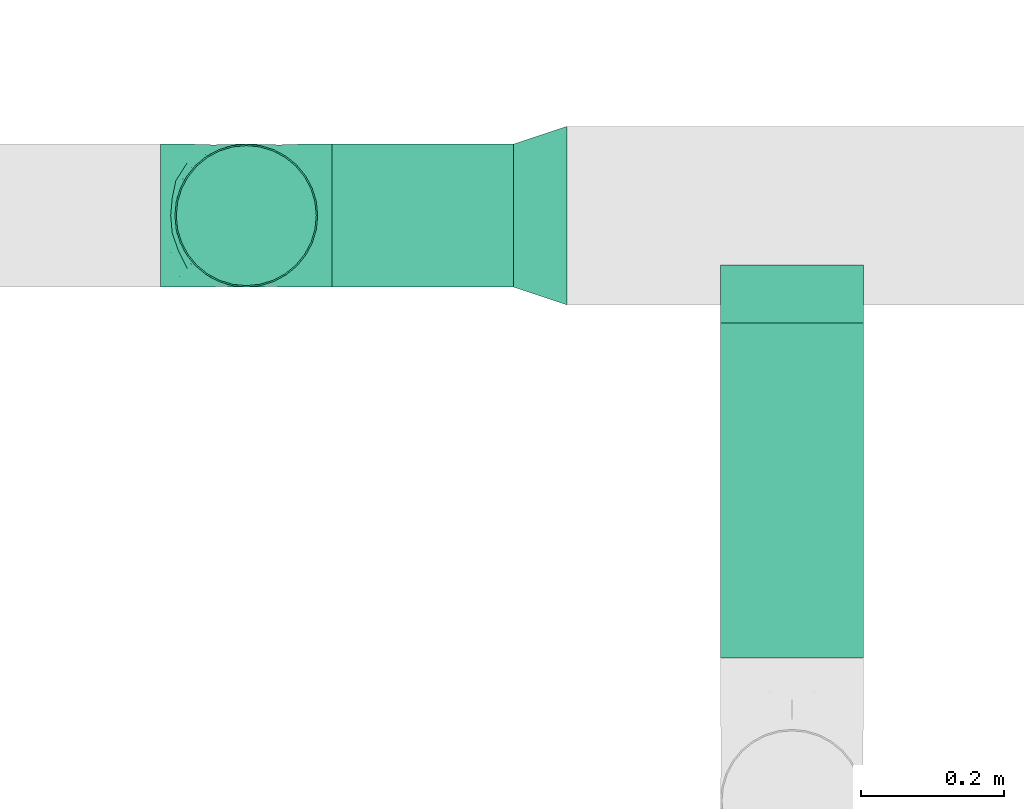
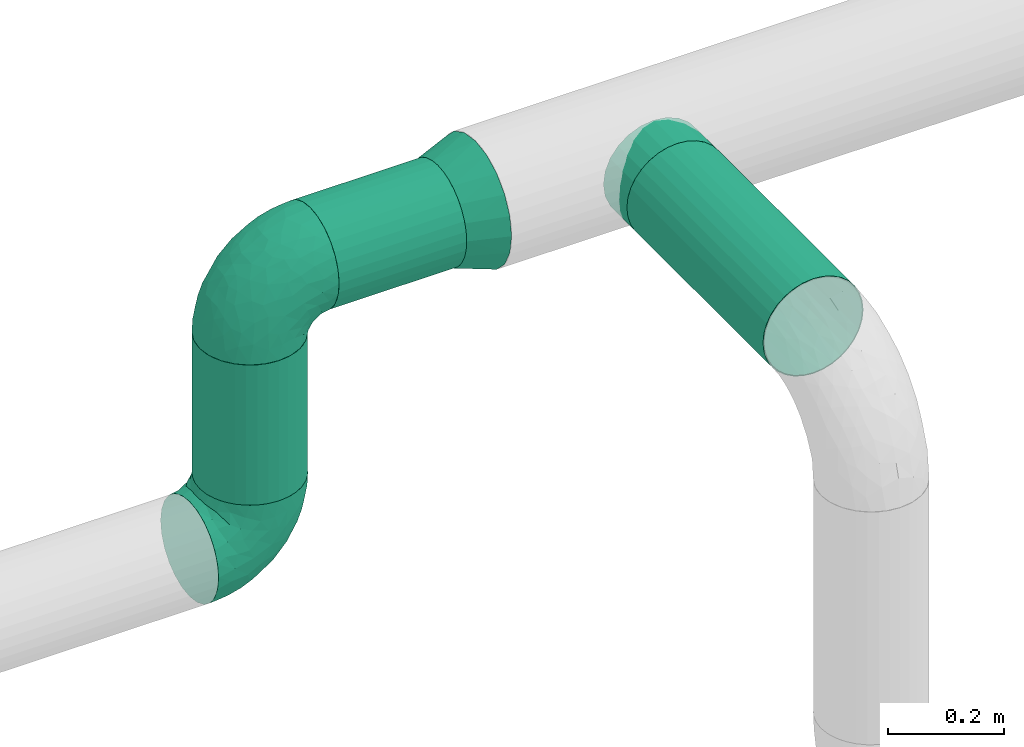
# One storey, part 8 of 31: 4 flow fittings, 3 flow segments.
"""IFC2X3 building model written with IfcOpenShell, lengths in millimetres."""

import ifcopenshell
import ifcopenshell.guid

model = None  # the IFC model being written
_history = None  # IfcOwnerHistory: only IFC2X3 demands one
_inside = {}  # id of a spatial element -> (the spatial element, [elements in it])
_under = {}  # id of a project, library or spatial element -> (it, [spatial elements below it])
_declared = {}  # id of a project -> (the project, [libraries it declares])
_typed = {}  # id of a type object -> (the type object, [elements of that type])
_made_of = {}  # id of a material, layer set ... -> (it, [elements and type objects made of it])


def new_model(schema):
    """Start an empty IFC model of exactly this schema.

    Asked for "IFC4X3", IfcOpenShell would pick the latest addendum, in which some entities
    have other attributes; the version numbers below select the first issue.
    IFC2X3 requires an IfcOwnerHistory on every rooted entity: one is made here for all.
    """
    global model, _history
    if schema == "IFC4X3":
        model = ifcopenshell.file(schema_version=(4, 3, 0, 0))
    else:
        model = ifcopenshell.file(schema=schema)
    _inside.clear()
    _under.clear()
    _declared.clear()
    _typed.clear()
    _made_of.clear()
    _history = None
    if model.schema == "IFC2X3":
        org = make("IfcOrganization", Name="unknown")
        user = make(
            "IfcPersonAndOrganization",
            ThePerson=make("IfcPerson", FamilyName="unknown"),
            TheOrganization=org,
        )
        app = make(
            "IfcApplication",
            ApplicationDeveloper=org,
            Version="unknown",
            ApplicationFullName="unknown",
            ApplicationIdentifier="unknown",
        )
        _history = make(
            "IfcOwnerHistory",
            OwningUser=user,
            OwningApplication=app,
            ChangeAction="ADDED",
            CreationDate=0,
        )
    return model


def make(cls, **values):
    """One entity of the class cls with the attributes given. An attribute that is None is left unset."""
    return model.create_entity(
        cls, **{name: value for name, value in values.items() if value is not None}
    )


def entity(cls, *values):
    """Any entity or typed value of the class cls, its attributes in the order of the schema. None: left unset."""
    e = model.create_entity(cls)
    for i, value in enumerate(values):
        if value is not None:
            e[i] = value
    return e


def rooted(cls, **values):
    """An entity with a GlobalId (a new one), such as an element, a storey or a relation."""
    return make(cls, GlobalId=ifcopenshell.guid.new(), OwnerHistory=_history, **values)


def si_unit(unit_type, name, prefix=None):
    """IfcSIUnit, for example si_unit("LENGTHUNIT", "METRE", prefix="MILLI")."""
    return make("IfcSIUnit", UnitType=unit_type, Prefix=prefix, Name=name)


def converted_unit(unit_type, name, factor, base, dimensions=None, offset=None):
    """IfcConversionBasedUnit, such as the inch: factor (a typed value) times the base unit."""
    return make(
        "IfcConversionBasedUnit"
        if offset is None
        else "IfcConversionBasedUnitWithOffset",
        ConversionOffset=offset,
        Dimensions=None
        if dimensions is None
        else entity("IfcDimensionalExponents", *dimensions),
        UnitType=unit_type,
        Name=name,
        ConversionFactor=make(
            "IfcMeasureWithUnit", ValueComponent=factor, UnitComponent=base
        ),
    )


def derived_unit(unit_type, elements):
    """IfcDerivedUnit: a product of units, each with its exponent."""
    return make(
        "IfcDerivedUnit",
        Elements=[
            make("IfcDerivedUnitElement", Unit=unit, Exponent=power)
            for unit, power in elements
        ],
        UnitType=unit_type,
    )


def assignment(units):
    """IfcUnitAssignment: the units of a project."""
    return None if units is None else make("IfcUnitAssignment", Units=units)


def point(xyz):
    """IfcCartesianPoint."""
    return None if xyz is None else make("IfcCartesianPoint", Coordinates=xyz)


def direction(xyz):
    """IfcDirection."""
    return None if xyz is None else make("IfcDirection", DirectionRatios=xyz)


def frame(location, z_axis=None, x_axis=None):
    """IfcAxis2Placement3D, a coordinate frame: its origin and axes. An axis left out is left unset."""
    return make(
        "IfcAxis2Placement3D",
        Location=point(location),
        Axis=direction(z_axis),
        RefDirection=direction(x_axis),
    )


def frame_2d(location, x_axis=None):
    """IfcAxis2Placement2D, a coordinate frame in the plane: its origin and x axis."""
    return make(
        "IfcAxis2Placement2D", Location=point(location), RefDirection=direction(x_axis)
    )


def origin_with_axes():
    """The frame at (0, 0, 0) with the z axis (0, 0, 1) and the x axis (1, 0, 0) written out."""
    return frame((0.0, 0.0, 0.0), z_axis=(0.0, 0.0, 1.0), x_axis=(1.0, 0.0, 0.0))


def origin_2d_with_axis():
    """The frame at (0, 0) in the plane with the x axis (1, 0) written out."""
    return frame_2d((0.0, 0.0), x_axis=(1.0, 0.0))


def place(relative_to, where):
    """IfcLocalPlacement: puts the frame where relative to a parent placement (None: the world)."""
    return make(
        "IfcLocalPlacement", PlacementRelTo=relative_to, RelativePlacement=where
    )


def context(
    kind, dimensions, precision=None, world=None, true_north=None, identifier=None
):
    """IfcGeometricRepresentationContext, for example the 3D "Model" context."""
    return make(
        "IfcGeometricRepresentationContext",
        ContextIdentifier=identifier,
        ContextType=kind,
        CoordinateSpaceDimension=dimensions,
        Precision=precision,
        WorldCoordinateSystem=world,
        TrueNorth=true_north,
    )


def subcontext(parent, identifier, kind, view, scale=None):
    """IfcGeometricRepresentationSubContext, for example "Body" below "Model"."""
    return make(
        "IfcGeometricRepresentationSubContext",
        ContextIdentifier=identifier,
        ContextType=kind,
        ParentContext=parent,
        TargetScale=scale,
        TargetView=view,
    )


def project(units=None, contexts=None):
    """IfcProject with its units and contexts."""
    return rooted(
        "IfcProject",
        Name="project",
        RepresentationContexts=contexts,
        UnitsInContext=assignment(units),
    )


def spatial(cls, under=None, at=None, **own):
    """A site, building, storey or space (cls), placed at a placement, below another one or the project."""
    s = rooted(cls, ObjectPlacement=at, **own)
    if under is not None:
        _under.setdefault(under.id(), (under, []))[1].append(s)
    return s


def profile(cls, at=None, kind="AREA", **sizes):
    """A parametric profile (cls). Its sizes go by their IFC names, for example OverallWidth=200.0."""
    return make(cls, ProfileType=kind, Position=at, **sizes)


def hollow_circle(**sizes):
    """IfcCircleHollowProfileDef."""
    return profile("IfcCircleHollowProfileDef", **sizes)


def extrude(swept, where, along, depth):
    """IfcExtrudedAreaSolid: the profile swept, set in the frame where, extruded along a direction by depth."""
    return make(
        "IfcExtrudedAreaSolid",
        SweptArea=swept,
        Position=where,
        ExtrudedDirection=direction(along),
        Depth=depth,
    )


def faces_of(points, faces, orient=None, outer=None):
    """IfcFace entities. A face is a list of loops; a loop is a list of indices into points, from 0.

    orient and outer hold one flag for each loop. By default every Orientation is true, the
    first loop of a face is its IfcFaceOuterBound and the others are IfcFaceBound.
    """
    made = []
    for i, loops in enumerate(faces):
        bounds = []
        for j, loop in enumerate(loops):
            is_outer = j == 0 if outer is None else outer[i][j]
            bounds.append(
                make(
                    "IfcFaceOuterBound" if is_outer else "IfcFaceBound",
                    Bound=make("IfcPolyLoop", Polygon=[points[k] for k in loop]),
                    Orientation=True if orient is None else orient[i][j],
                )
            )
        made.append(make("IfcFace", Bounds=bounds))
    return made


def open_shell(faces, orient=None, outer=None):
    """The faces of one IfcOpenShell. surface_model builds it on its shared points."""
    return ("IfcOpenShell", faces, orient, outer)


def surface_model(cls, points, shells):
    """IfcFaceBasedSurfaceModel or IfcShellBasedSurfaceModel (cls): surfaces that need not close."""
    shared = [point(p) for p in points]
    made = [make(c, CfsFaces=faces_of(shared, fs, o, b)) for c, fs, o, b in shells]
    if cls == "IfcFaceBasedSurfaceModel":
        return make(cls, FbsmFaces=made)
    return make(cls, SbsmBoundary=made)


def shape(context_of_items, identifier, shape_type, items):
    """IfcShapeRepresentation: the items that make up one representation, for example the "Body"."""
    return make(
        "IfcShapeRepresentation",
        ContextOfItems=context_of_items,
        RepresentationIdentifier=identifier,
        RepresentationType=shape_type,
        Items=items,
    )


def source(mapping_origin, context_of_items, identifier, shape_type, items):
    """IfcRepresentationMap: a shape defined once, which mapped items show again and again."""
    return make(
        "IfcRepresentationMap",
        MappingOrigin=mapping_origin,
        MappedRepresentation=shape(context_of_items, identifier, shape_type, items),
    )


def transform(
    local_origin,
    x_axis=None,
    y_axis=None,
    z_axis=None,
    scale=None,
    scale2=None,
    scale3=None,
    uniform=True,
):
    """IfcCartesianTransformationOperator3D, or its non-uniform kind. x_axis, y_axis, z_axis: its Axis1, 2, 3."""
    if uniform:
        return make(
            "IfcCartesianTransformationOperator3D",
            Axis1=direction(x_axis),
            Axis2=direction(y_axis),
            LocalOrigin=point(local_origin),
            Scale=scale,
            Axis3=direction(z_axis),
        )
    return make(
        "IfcCartesianTransformationOperator3DnonUniform",
        Axis1=direction(x_axis),
        Axis2=direction(y_axis),
        LocalOrigin=point(local_origin),
        Scale=scale,
        Axis3=direction(z_axis),
        Scale2=scale2,
        Scale3=scale3,
    )


def mapped(mapping_source, mapping_target):
    """IfcMappedItem: shows the shape of a source again, moved by a transform."""
    return make(
        "IfcMappedItem", MappingSource=mapping_source, MappingTarget=mapping_target
    )


def made_of(thing, what):
    """Note that an element or type object is made of a material, layer set ...; save() writes the relation."""
    if what is not None:
        _made_of.setdefault(what.id(), (what, []))[1].append(thing)
    return thing


def type_object(cls, material=None, **own):
    """A type object (cls), such as IfcWallType, which elements share."""
    return made_of(rooted(cls, **own), material)


def element(
    cls,
    number,
    at=None,
    inside=None,
    cuts=None,
    type_object=None,
    material=None,
    context=None,
    identifier="Body",
    shape_type=None,
    held_by="IfcProductDefinitionShape",
    body=None,
    shapes=None,
    **own,
):
    """One element of the class cls, such as IfcWall. Its Tag is "e" and its number.

    at: its placement. inside: the storey or other place that contains it. cuts: it is an
    opening in that element (IfcRelVoidsElement). A single representation is given by context,
    identifier, shape_type and body (its items); several are given by shapes. held_by: the class
    of the entity that holds the representations. save() writes the other relations.
    """
    e = rooted(cls, Tag="e%d" % number, ObjectPlacement=at, **own)
    if body is not None:
        shapes = [shape(context, identifier, shape_type, body)]
    if shapes is not None:
        e.Representation = make(held_by, Representations=shapes)
    if inside is not None:
        _inside.setdefault(inside.id(), (inside, []))[1].append(e)
    if cuts is not None:
        rooted(
            "IfcRelVoidsElement", RelatingBuildingElement=cuts, RelatedOpeningElement=e
        )
    if type_object is not None:
        _typed.setdefault(type_object.id(), (type_object, []))[1].append(e)
    return made_of(e, material)


def aggregate(whole, parts):
    """IfcRelAggregates: a whole, such as a stair, and the parts it consists of."""
    return rooted("IfcRelAggregates", RelatingObject=whole, RelatedObjects=parts)


def save(model, path):
    """Write the relations noted so far, then the file.

    IfcRelAggregates (storeys below a building ...), IfcRelContainedInSpatialStructure (elements
    in a storey), IfcRelDefinesByType, IfcRelAssociatesMaterial and IfcRelDeclares: one each for
    every whole, place, type object, material and project.
    """
    for whole, parts in _under.values():
        aggregate(whole, parts)
    for where, things in _inside.values():
        rooted(
            "IfcRelContainedInSpatialStructure",
            RelatedElements=things,
            RelatingStructure=where,
        )
    for kind, things in _typed.values():
        rooted("IfcRelDefinesByType", RelatedObjects=things, RelatingType=kind)
    for what, things in _made_of.values():
        rooted("IfcRelAssociatesMaterial", RelatedObjects=things, RelatingMaterial=what)
    for by, libraries in _declared.values():
        rooted("IfcRelDeclares", RelatingContext=by, RelatedDefinitions=libraries)
    model.write(path)


model = new_model("IFC2X3")

# Units and contexts
model_context = context("Model", 3, precision=0.01, world=frame((0.0, 4.29681676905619e-09, 0.0)), true_north=direction((4.01073788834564e-13, 1.0)))
plan_context = context("Plan", 3, precision=0.01, world=frame((0.0, 4.29681676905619e-09, 0.0)), true_north=direction((4.01073788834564e-13, 1.0)))
body_context = subcontext(model_context, "Body", "Model", "MODEL_VIEW")
ifc_project = project(units=[converted_unit("PLANEANGLEUNIT", "DEGREE", entity("IfcPositiveLengthMeasure", 0.0174532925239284), si_unit("PLANEANGLEUNIT", "RADIAN"), dimensions=[0, 0, 0, 0, 0, 0, 0]), si_unit("AREAUNIT", "SQUARE_METRE"), si_unit("LENGTHUNIT", "METRE", prefix="MILLI"), si_unit("MASSUNIT", "GRAM", prefix="KILO"), si_unit("POWERUNIT", "WATT"), si_unit("PRESSUREUNIT", "PASCAL", prefix="KILO"), si_unit("FORCEUNIT", "NEWTON", prefix="KILO"), si_unit("ELECTRICVOLTAGEUNIT", "VOLT"), si_unit("ELECTRICCURRENTUNIT", "AMPERE"), si_unit("THERMODYNAMICTEMPERATUREUNIT", "DEGREE_CELSIUS"), si_unit("TIMEUNIT", "SECOND"), si_unit("VOLUMEUNIT", "CUBIC_METRE"), derived_unit("LINEARVELOCITYUNIT", [(si_unit("LENGTHUNIT", "METRE"), 1), (si_unit("TIMEUNIT", "SECOND"), -1)]), derived_unit("VOLUMETRICFLOWRATEUNIT", [(si_unit("VOLUMEUNIT", "CUBIC_METRE"), 1), (si_unit("TIMEUNIT", "SECOND"), -1)]), derived_unit("THERMALTRANSMITTANCEUNIT", [(si_unit("POWERUNIT", "WATT"), 1), (si_unit("THERMODYNAMICTEMPERATUREUNIT", "KELVIN"), -1), (si_unit("AREAUNIT", "SQUARE_METRE"), -1)]), derived_unit("SOUNDPRESSUREUNIT", [(si_unit("PRESSUREUNIT", "PASCAL"), 1)])], contexts=[model_context, plan_context])

# Site, building, storey
site_placement = place(None, frame((0.0, -4.29681676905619e-09, 0.0), z_axis=(0.0, 0.0, 1.0), x_axis=(1.0, 0.0, 0.0)))
site = spatial("IfcSite", under=ifc_project, at=site_placement, CompositionType="ELEMENT")
building_placement = place(site_placement, frame((0.0, 4.29681676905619e-09, 0.0), z_axis=(0.0, 0.0, 1.0), x_axis=(1.0, 0.0, 0.0)))
building = spatial("IfcBuilding", under=site, at=building_placement, Name="mc-building", CompositionType="ELEMENT")
storey_placement = place(building_placement, frame((0.0, 0.0, 210900.0), z_axis=(0.0, 0.0, 1.0), x_axis=(1.0, 0.0, 0.0)))
storey = spatial("IfcBuildingStorey", under=building, at=storey_placement, Name="Nivå F", CompositionType="ELEMENT", Elevation=210900.0)

# Flow fittings
duct_fitting_type_1 = type_object("IfcDuctFittingType", Name="magicirc_elbow_short_001", PredefinedType="BEND")
shared_shape_1 = source(origin_with_axes(), body_context, "Body", "SurfaceModel", [
    surface_model("IfcShellBasedSurfaceModel", [(-120.0, 0.0, -100.0), (-120.0, -86.60254, -50.0), (-120.0, 25.8819, -96.59259), (-120.0, 50.0, -86.60254), (-120.0, 70.71068, -70.71068), (-120.0, 96.59259, -25.8819), (-120.0, 86.60254, -50.0), (-120.0, -50.0, -86.60254), (-120.0, -70.71068, -70.71068), (-120.0, -25.8819, -96.59259), (-120.0, -96.59259, -25.8819), (-120.0, -100.0, 0.0), (-120.0, 96.59259, 25.8819), (-120.0, -96.59259, 25.8819), (-120.0, 86.60254, 50.0), (-120.0, 25.8819, 96.59259), (-120.0, 50.0, 86.60254), (-120.0, 70.71068, 70.71068), (-120.0, -25.8819, 96.59259), (-120.0, -70.71068, 70.71068), (-120.0, -50.0, 86.60254), (-120.0, -86.60254, 50.0), (-120.0, 0.0, 100.0), (-120.0, 100.0, 0.0), (-25.8819, 120.0, -96.59259), (70.71068, 120.0, -70.71068), (0.0, 120.0, -100.0), (-70.71068, 120.0, -70.71068), (-50.0, 120.0, -86.60254), (-86.60254, 120.0, -50.0), (-96.59259, 120.0, -25.8819), (86.60254, 120.0, -50.0), (25.8819, 120.0, -96.59259), (50.0, 120.0, -86.60254), (100.0, 120.0, 0.0), (96.59259, 120.0, -25.8819), (-96.59259, 120.0, 25.8819), (96.59259, 120.0, 25.8819), (-25.8819, 120.0, 96.59259), (-86.60254, 120.0, 50.0), (-70.71068, 120.0, 70.71068), (-50.0, 120.0, 86.60254), (25.8819, 120.0, 96.59259), (86.60254, 120.0, 50.0), (50.0, 120.0, 86.60254), (70.71068, 120.0, 70.71068), (0.0, 120.0, 100.0), (-100.0, 120.0, 0.0), (-57.47657, 95.22229, 84.95805), (-85.33946, -92.96309, 28.79275), (-95.20929, -97.20676, 0.0), (-84.48473, -65.01559, 72.95431), (-52.96075, -70.60035, 57.16979), (-58.29219, -58.77958, 72.2572), (-71.0454, -94.48414, 0.0), (-33.46621, 86.30074, 96.24781), (-7.45333, 88.76819, 99.94878), (-26.53059, -25.83103, 84.66541), (5.23459, -24.1841, 70.44192), (-1.23107, 1.23105, 87.74618), (-103.71213, 103.71213, 24.44784), (-95.28171, 98.70414, 48.64074), (-78.83961, -43.63421, 87.3226), (48.45058, -8.12007, 40.03254), (39.62941, -27.51041, 22.8702), (55.13075, -9.11298, 21.86769), (27.15427, -27.15428, 47.29752), (-0.9865, -46.35038, 53.41318), (-49.25997, -85.42957, 23.21428), (-69.41482, -80.94006, 48.93369), (34.63169, 2.36241, 66.9375), (-59.03727, -17.74459, 95.19283), (-92.36993, -18.34983, 97.75252), (-98.24586, -81.70799, 55.95793), (-87.21661, 7.38787, 99.96319), (-79.82304, 33.86298, 96.83649), (-103.25245, 34.36931, 94.48617), (-49.8635, 16.95363, 99.89181), (-93.99414, 57.52782, 85.21417), (-13.524, 31.6217, 98.29715), (-30.34675, -2.85909, 94.71053), (-102.74619, 77.59979, 67.01377), (-105.2102, 88.7141, 52.03645), (94.48414, 71.0454, 0.0), (92.96309, 85.33946, 28.79275), (85.42957, 49.25997, 23.21428), (18.34983, 92.36993, 97.75252), (-37.44754, -44.66633, 76.66985), (-66.8783, 56.54931, 92.80405), (65.01559, 84.48473, 72.95431), (43.6342, 78.83961, 87.3226), (37.67702, 38.38344, 81.78155), (58.58205, 33.30331, 61.93165), (58.77958, 58.29217, 72.2572), (14.52663, -47.57763, 31.54394), (81.70799, 98.24586, 55.95793), (97.20676, 95.20929, 0.0), (75.2275, 38.8764, 40.54554), (80.94006, 69.41482, 48.93369), (-19.32309, 64.21329, 99.87988), (-105.85786, 105.85786, 0.0), (17.74458, 59.03726, 95.19283), (70.60036, 52.96074, 57.16978), (-82.76473, 82.76473, 73.92657), (-77.59979, 102.74619, 67.01377), (-38.87641, -75.2275, 40.54555), (-40.86148, 50.04827, 98.96107), (-25.82378, -76.70765, 19.45345), (-49.50418, 71.23352, 93.94065), (-57.3172, 35.12243, 98.9453), (65.10804, 3.68891, 0.0), (65.80674, 11.30259, 30.40508), (15.01777, 28.10412, 90.12797), (-0.1518, 65.0789, 99.29745), (-47.79548, -86.34864, 0.0), (-67.45496, 75.91085, 85.7741), (-3.68891, -65.10804, 0.0), (17.16776, -52.00293, 0.0), (-11.30259, -65.80674, 30.40508), (-24.54558, -78.21315, 0.0), (76.76895, 27.91333, 23.28633), (86.34864, 47.79548, 0.0), (58.40844, 13.74403, 48.13414), (52.00293, -17.16776, 0.0), (20.33542, 8.19535, 80.42602), (-51.11653, -33.50476, 87.58865), (-33.30333, -58.58206, 61.93166), (-17.26255, -60.80757, 47.57586), (78.21315, 24.54558, 0.0), (34.58534, -34.58534, 0.0), (-86.30074, 33.4662, -96.24781), (-34.36932, 103.25245, -94.48617), (-11.30259, -65.80673, -30.40508), (9.11298, -55.13075, -21.86769), (-98.24586, -81.70799, -55.95793), (-88.7682, 7.45333, -99.94878), (43.63421, 78.83961, -87.3226), (-98.70414, 95.28171, -48.64074), (-82.76473, 82.76473, -73.92657), (-102.74619, 77.59979, -67.01377), (85.42957, 49.25997, -23.21428), (75.22749, 38.8764, -40.54555), (80.94006, 69.41482, -48.93369), (27.15427, -27.15428, -47.29753), (47.57763, -14.52663, -31.54396), (27.51041, -39.62941, -22.8702), (-71.23352, 49.50417, -93.94066), (-56.54932, 66.8783, -92.80405), (-50.04827, 40.86148, -98.96107), (-33.86298, 79.82303, -96.83649), (-57.52782, 93.99414, -85.21417), (-16.95364, 49.8635, -99.89182), (-31.6217, 13.52399, -98.29715), (-85.33946, -92.96309, -28.79275), (24.18408, -5.23461, -70.44192), (46.35038, 0.9865, -53.41318), (65.01559, 84.48472, -72.95431), (-84.48473, -65.01559, -72.95431), (-78.83961, -43.63421, -87.3226), (-103.71213, 103.71213, -24.44784), (-95.22229, 57.47657, -84.95805), (-49.25997, -85.42957, -23.21428), (-92.36993, -18.34984, -97.75252), (-38.87641, -75.2275, -40.54555), (-69.41482, -80.94006, -48.93369), (-88.7141, 105.2102, -52.03645), (-7.38786, 87.21659, -99.96319), (17.74459, 59.03726, -95.19283), (-33.30333, -58.58206, -61.93166), (-52.96075, -70.60035, -57.16979), (-77.59979, 102.74619, -67.01377), (-38.38346, -37.67703, -81.78155), (-2.36242, -34.6317, -66.93751), (18.34983, 92.36993, -97.75252), (81.70799, 98.24586, -55.95793), (8.12006, -48.45058, -40.03254), (-1.23106, 1.23105, -87.74618), (25.83103, 26.53058, -84.6654), (92.96309, 85.33946, -28.79275), (76.70765, 25.82378, -19.45345), (-59.03727, -17.74459, -95.19283), (2.8591, 30.34673, -94.71053), (-64.21329, 19.32309, -99.87988), (58.77958, 58.29219, -72.2572), (70.60035, 52.96075, -57.16979), (-58.29219, -58.77958, -72.2572), (-35.12244, 57.3172, -98.9453), (44.66633, 37.44754, -76.66985), (-28.10413, -15.01778, -90.12797), (-65.07891, 0.1518, -99.29745), (-75.91086, 67.45496, -85.7741), (-27.91333, -76.76895, -23.28633), (-13.74403, -58.40844, -48.13415), (65.80673, 11.30258, -30.40508), (-8.19536, -20.33543, -80.42602), (33.50476, 51.11653, -87.58865), (58.58205, 33.30333, -61.93166), (60.80757, 17.26255, -47.57586)], [open_shell([[[0, 1, 2]], [[3, 2, 4]], [[5, 6, 4]], [[1, 4, 2]], [[4, 1, 5]], [[7, 8, 9]], [[8, 0, 9]], [[10, 11, 1]], [[1, 0, 8]], [[1, 11, 5]], [[11, 12, 5]], [[12, 11, 13]], [[14, 12, 15]], [[15, 16, 17]], [[14, 15, 17]], [[15, 12, 18]], [[19, 20, 21]], [[13, 21, 20]], [[13, 20, 12]], [[20, 18, 12]], [[18, 22, 15]], [[23, 5, 12]], [[24, 25, 26]], [[27, 24, 28]], [[27, 29, 30]], [[24, 27, 31]], [[30, 31, 27]], [[32, 25, 33]], [[32, 26, 25]], [[31, 34, 35]], [[25, 24, 31]], [[30, 34, 31]], [[30, 36, 34]], [[37, 34, 36]], [[38, 36, 39]], [[40, 41, 38]], [[40, 38, 39]], [[42, 36, 38]], [[43, 44, 45]], [[44, 43, 37]], [[36, 44, 37]], [[36, 42, 44]], [[38, 46, 42]], [[36, 30, 47]], [[41, 40, 48]], [[49, 13, 50]], [[49, 21, 13]], [[51, 52, 53]], [[50, 54, 49]], [[38, 55, 56]], [[57, 58, 59]], [[60, 61, 36]], [[20, 51, 62]], [[63, 64, 65]], [[66, 58, 67]], [[49, 68, 69]], [[20, 19, 51]], [[58, 66, 70]], [[62, 71, 72]], [[22, 18, 72]], [[73, 19, 21]], [[74, 75, 76]], [[75, 74, 77]], [[16, 76, 78]], [[79, 77, 80]], [[17, 81, 14]], [[82, 12, 14]], [[81, 82, 14]], [[23, 12, 60]], [[83, 84, 85]], [[16, 78, 17]], [[41, 48, 55]], [[42, 46, 86]], [[53, 87, 62]], [[18, 20, 62]], [[75, 88, 78]], [[89, 45, 44]], [[86, 90, 42]], [[60, 12, 82]], [[44, 42, 90]], [[91, 92, 93]], [[84, 37, 43]], [[66, 94, 64]], [[90, 89, 44]], [[45, 95, 43]], [[84, 96, 37]], [[97, 85, 98]], [[15, 76, 16]], [[99, 56, 55]], [[100, 23, 60]], [[91, 90, 101]], [[100, 60, 47]], [[92, 97, 102]], [[103, 104, 61]], [[68, 105, 69]], [[106, 77, 79]], [[61, 39, 36]], [[40, 39, 104]], [[15, 22, 74]], [[107, 105, 68]], [[108, 88, 106]], [[55, 38, 41]], [[56, 46, 38]], [[92, 91, 70]], [[109, 77, 106]], [[110, 111, 65]], [[74, 71, 77]], [[72, 74, 22]], [[80, 71, 57]], [[75, 109, 88]], [[81, 78, 103]], [[112, 79, 59]], [[113, 56, 99]], [[68, 54, 114]], [[73, 49, 69]], [[95, 84, 43]], [[85, 84, 98]], [[104, 48, 40]], [[115, 88, 108]], [[108, 99, 55]], [[56, 113, 86]], [[102, 93, 92]], [[95, 89, 98]], [[73, 51, 19]], [[52, 69, 105]], [[116, 117, 118]], [[68, 119, 107]], [[107, 116, 118]], [[67, 94, 66]], [[97, 111, 120]], [[85, 121, 83]], [[70, 63, 122]], [[65, 123, 110]], [[101, 112, 91]], [[66, 64, 63]], [[124, 91, 112]], [[70, 124, 58]], [[59, 80, 57]], [[58, 87, 67]], [[57, 125, 87]], [[58, 57, 87]], [[99, 108, 106]], [[78, 88, 115]], [[56, 86, 46]], [[90, 86, 101]], [[62, 72, 18]], [[74, 72, 71]], [[61, 104, 39]], [[104, 103, 115]], [[78, 81, 17]], [[82, 103, 61]], [[126, 127, 67]], [[67, 127, 94]], [[85, 128, 121]], [[94, 129, 64]], [[110, 120, 111]], [[63, 65, 111]], [[122, 63, 111]], [[70, 66, 63]], [[79, 80, 59]], [[77, 71, 80]], [[106, 79, 99]], [[113, 79, 101]], [[55, 48, 108]], [[48, 104, 115]], [[48, 115, 108]], [[78, 115, 103]], [[127, 105, 118]], [[105, 127, 52]], [[53, 52, 126]], [[51, 69, 52]], [[87, 53, 126]], [[62, 51, 53]], [[87, 126, 67]], [[57, 71, 125]], [[71, 62, 125]], [[62, 87, 125]], [[102, 97, 98]], [[122, 97, 92]], [[98, 89, 102]], [[93, 102, 89]], [[89, 90, 93]], [[91, 93, 90]], [[97, 122, 111]], [[70, 122, 92]], [[79, 113, 99]], [[86, 113, 101]], [[64, 123, 65]], [[85, 97, 120]], [[79, 112, 101]], [[120, 110, 128]], [[124, 112, 59]], [[58, 124, 59]], [[91, 124, 70]], [[103, 82, 81]], [[82, 61, 60]], [[13, 11, 50]], [[96, 84, 83]], [[96, 34, 37]], [[47, 60, 36]], [[74, 76, 15]], [[78, 76, 75]], [[49, 73, 21]], [[51, 73, 69]], [[89, 95, 45]], [[84, 95, 98]], [[88, 109, 106]], [[75, 77, 109]], [[54, 68, 49]], [[114, 119, 68]], [[105, 107, 118]], [[107, 119, 116]], [[117, 94, 118]], [[127, 126, 52]], [[94, 127, 118]], [[129, 94, 117]], [[129, 123, 64]], [[128, 85, 120]], [[3, 130, 2]], [[24, 131, 28]], [[132, 133, 116]], [[8, 134, 1]], [[2, 135, 0]], [[32, 33, 136]], [[137, 138, 139]], [[140, 141, 142]], [[6, 139, 4]], [[143, 144, 145]], [[6, 5, 137]], [[146, 147, 148]], [[149, 147, 150]], [[148, 151, 152]], [[1, 153, 10]], [[143, 154, 155]], [[153, 50, 10]], [[33, 25, 156]], [[157, 7, 158]], [[159, 137, 5]], [[8, 7, 157]], [[7, 9, 158]], [[3, 4, 160]], [[35, 34, 96]], [[54, 153, 161]], [[9, 162, 158]], [[163, 161, 164]], [[165, 30, 29]], [[23, 100, 159]], [[166, 167, 151]], [[47, 30, 159]], [[168, 163, 169]], [[29, 170, 165]], [[24, 26, 166]], [[168, 171, 172]], [[27, 170, 29]], [[149, 131, 166]], [[160, 130, 3]], [[149, 166, 151]], [[136, 167, 173]], [[174, 25, 31]], [[27, 28, 150]], [[28, 131, 150]], [[32, 173, 26]], [[136, 33, 156]], [[154, 143, 172]], [[2, 130, 135]], [[133, 175, 145]], [[154, 176, 177]], [[9, 0, 162]], [[140, 142, 178]], [[179, 141, 140]], [[96, 83, 178]], [[35, 96, 178]], [[171, 158, 180]], [[152, 151, 181]], [[182, 135, 130]], [[183, 156, 184]], [[171, 168, 185]], [[178, 31, 35]], [[173, 166, 26]], [[159, 5, 23]], [[149, 151, 186]], [[183, 187, 136]], [[181, 167, 177]], [[149, 186, 147]], [[170, 150, 138]], [[188, 152, 176]], [[189, 135, 182]], [[134, 153, 1]], [[161, 153, 164]], [[140, 83, 121]], [[174, 178, 142]], [[139, 160, 4]], [[190, 147, 146]], [[146, 182, 130]], [[135, 189, 162]], [[169, 185, 168]], [[134, 157, 164]], [[174, 156, 25]], [[184, 142, 141]], [[163, 132, 191]], [[161, 114, 54]], [[172, 175, 192]], [[133, 117, 116]], [[110, 123, 193]], [[140, 128, 179]], [[179, 110, 193]], [[155, 144, 143]], [[180, 188, 171]], [[143, 145, 175]], [[194, 171, 188]], [[172, 194, 154]], [[176, 181, 177]], [[154, 187, 155]], [[177, 195, 187]], [[154, 177, 187]], [[182, 146, 148]], [[150, 147, 190]], [[135, 162, 0]], [[158, 162, 180]], [[136, 173, 32]], [[166, 173, 167]], [[137, 139, 6]], [[139, 138, 190]], [[150, 170, 27]], [[165, 138, 137]], [[196, 197, 155]], [[155, 197, 144]], [[197, 196, 184]], [[144, 129, 145]], [[116, 191, 132]], [[175, 133, 132]], [[192, 175, 132]], [[172, 143, 175]], [[152, 181, 176]], [[151, 167, 181]], [[148, 152, 182]], [[189, 152, 180]], [[130, 160, 146]], [[160, 139, 190]], [[160, 190, 146]], [[150, 190, 138]], [[169, 163, 164]], [[192, 163, 168]], [[164, 157, 169]], [[185, 169, 157]], [[157, 158, 185]], [[171, 185, 158]], [[197, 141, 193]], [[141, 197, 184]], [[183, 184, 196]], [[156, 142, 184]], [[187, 183, 196]], [[136, 156, 183]], [[187, 196, 155]], [[177, 167, 195]], [[167, 136, 195]], [[136, 187, 195]], [[163, 192, 132]], [[172, 192, 168]], [[152, 189, 182]], [[162, 189, 180]], [[145, 117, 133]], [[161, 163, 191]], [[152, 188, 180]], [[191, 116, 119]], [[194, 188, 176]], [[154, 194, 176]], [[171, 194, 172]], [[138, 165, 170]], [[165, 137, 159]], [[50, 153, 54]], [[50, 11, 10]], [[47, 159, 100]], [[159, 30, 165]], [[166, 131, 24]], [[150, 131, 149]], [[178, 174, 31]], [[156, 174, 142]], [[157, 134, 8]], [[153, 134, 164]], [[151, 148, 186]], [[147, 186, 148]], [[161, 119, 114]], [[83, 140, 178]], [[121, 128, 140]], [[141, 179, 193]], [[179, 128, 110]], [[123, 144, 193]], [[144, 197, 193]], [[129, 144, 123]], [[129, 117, 145]], [[119, 161, 191]]])]),
])
for number, where, z_axis, x_axis, name in (
    (1, (720938.23525, 437405.213, 3320.0), (0.0, -1.0, 0.0), (1.0, 0.0, 0.0), "magicirc_elbow_short_001"),
    (2, (720938.23525, 437405.213, 3855.0), (0.0, 1.0, 0.0), (0.0, 0.0, 1.0), "magicirc_elbow_short_001"),
):
    element("IfcFlowFitting", number, at=place(storey_placement, frame(where, z_axis=z_axis, x_axis=x_axis)), inside=storey, type_object=duct_fitting_type_1, Name=name, context=body_context, shape_type="MappedRepresentation", body=[
        mapped(shared_shape_1, transform((0.0, 0.0, 0.0), scale=1.0)),
    ])
duct_fitting_type_2 = type_object("IfcDuctFittingType", Name="magicirc_reduction_001", PredefinedType="TRANSITION")
shared_shape_2 = source(origin_with_axes(), body_context, "Body", "SurfaceModel", [
    surface_model("IfcShellBasedSurfaceModel", [(75.0, -100.0, 0.0), (75.0, -17.36482, 98.48077), (75.0, -50.0, 86.60254), (75.0, 76.60444, 64.27876), (75.0, 93.96926, -34.20201), (75.0, 93.96926, 34.20201), (75.0, 76.60444, -64.27876), (75.0, 17.36482, 98.48077), (0.0, -118.88206, 38.62713), (0.0, -118.88206, -38.62713), (0.0, -125.0, 0.0), (0.0, 125.0, 0.0), (0.0, -73.47315, -101.12712), (0.0, 101.12712, -73.47315), (0.0, 73.47315, -101.12712), (0.0, 38.62713, -118.88206), (75.0, -76.60444, 64.27876), (75.0, 50.0, 86.60254), (75.0, 100.0, 0.0), (75.0, -93.96926, 34.20201), (75.0, -17.36482, -98.48077), (75.0, -93.96926, -34.20201), (75.0, -76.60444, -64.27876), (75.0, -50.0, -86.60254), (75.0, 50.0, -86.60254), (75.0, 17.36482, -98.48077), (0.0, -38.62713, 118.88206), (0.0, 0.0, 125.0), (0.0, 73.47315, 101.12712), (0.0, 101.12712, 73.47315), (0.0, 38.62713, 118.88206), (0.0, -101.12712, 73.47315), (0.0, -73.47315, 101.12712), (0.0, 118.88206, 38.62713), (0.0, -38.62713, -118.88206), (0.0, 118.88206, -38.62713), (0.0, 0.0, -125.0), (0.0, -101.12712, -73.47315)], [open_shell([[[0, 1, 2]], [[3, 4, 5]], [[4, 0, 6]], [[0, 4, 7]], [[8, 9, 10]], [[11, 12, 9]], [[13, 14, 15]], [[1, 0, 7]], [[2, 16, 0]], [[17, 7, 4]], [[5, 4, 18]], [[4, 3, 17]], [[0, 16, 19]], [[20, 0, 21]], [[21, 22, 20]], [[23, 20, 22]], [[24, 20, 25]], [[24, 6, 0]], [[20, 24, 0]], [[9, 26, 27]], [[11, 28, 29]], [[27, 30, 11]], [[30, 28, 11]], [[9, 31, 32]], [[31, 9, 8]], [[9, 32, 26]], [[11, 29, 33]], [[34, 11, 35]], [[35, 13, 36]], [[15, 36, 13]], [[37, 9, 12]], [[11, 34, 12]], [[35, 36, 34]], [[11, 9, 27]], [[18, 4, 35]], [[24, 25, 15]], [[6, 24, 14]], [[4, 6, 13]], [[11, 18, 35]], [[6, 14, 13]], [[13, 35, 4]], [[14, 24, 15]], [[25, 36, 15]], [[34, 20, 23]], [[21, 0, 9]], [[22, 21, 37]], [[12, 23, 22]], [[34, 36, 20]], [[12, 34, 23]], [[21, 9, 37]], [[37, 12, 22]], [[10, 9, 0]], [[20, 36, 25]], [[0, 19, 8]], [[2, 1, 26]], [[16, 2, 32]], [[19, 16, 31]], [[10, 0, 8]], [[16, 32, 31]], [[31, 8, 19]], [[32, 2, 26]], [[1, 27, 26]], [[30, 7, 17]], [[5, 18, 33]], [[3, 5, 29]], [[28, 17, 3]], [[30, 27, 7]], [[28, 30, 17]], [[5, 33, 29]], [[29, 28, 3]], [[11, 33, 18]], [[7, 27, 1]]])]),
])
flow_fitting_1_placement = place(storey_placement, frame((721387.22373, 437405.213, 3855.0), z_axis=(0.0, 0.0, 1.0), x_axis=(-1.0, 0.0, 0.0)))
element("IfcFlowFitting", 3, at=flow_fitting_1_placement, inside=storey, type_object=duct_fitting_type_2, Name="magicirc_reduction_001", context=body_context, shape_type="MappedRepresentation", body=[
    mapped(shared_shape_2, transform((0.0, 0.0, 0.0), scale=1.0)),
])
duct_fitting_type_3 = type_object("IfcDuctFittingType", Name="magicirc_tapoutlet_001", PredefinedType="CONNECTOR")
shared_shape_3 = source(origin_with_axes(), body_context, "Body", "SurfaceModel", [
    surface_model("IfcShellBasedSurfaceModel", [(25.0, 0.0, -100.0), (25.0, -50.0, -86.60254), (25.0, -25.8819, -96.59259), (-56.096, 100.0, 0.0), (-56.096, 96.59259, -25.8819), (-56.096, 96.59259, 25.8819), (0.0, -25.8819, 96.59259), (0.0, 0.0, 100.0), (-56.096, 0.0, 100.0), (-56.096, -100.0, 0.0), (0.0, -100.0, 0.0), (0.0, -96.59259, 25.8819), (-56.096, -96.59259, 25.8819), (0.0, -86.60254, 50.0), (-56.096, -86.60254, 50.0), (-56.096, -70.71068, -70.71068), (0.0, -70.71068, -70.71068), (-56.096, -86.60254, -50.0), (-56.096, 86.60254, -50.0), (0.0, 70.71068, -70.71068), (-56.096, 70.71068, -70.71068), (0.0, 96.59259, 25.8819), (0.0, 100.0, 0.0), (0.0, 86.60254, 50.0), (-56.096, 86.60254, 50.0), (0.0, 25.8819, 96.59259), (25.0, -100.0, 0.0), (25.0, -96.59259, -25.8819), (25.0, -96.59259, 25.8819), (25.0, 25.8819, -96.59259), (25.0, 100.0, 0.0), (25.0, 50.0, -86.60254), (25.0, 70.71068, -70.71068), (25.0, 86.60254, -50.0), (25.0, -70.71068, -70.71068), (25.0, -86.60254, -50.0), (25.0, 96.59259, -25.8819), (25.0, 96.59259, 25.8819), (25.0, 86.60254, 50.0), (25.0, 70.71068, 70.71068), (25.0, 25.8819, 96.59259), (25.0, 50.0, 86.60254), (25.0, -25.8819, 96.59259), (25.0, -70.71068, 70.71068), (25.0, -86.60254, 50.0), (25.0, -50.0, 86.60254), (25.0, 0.0, 100.0), (0.0, 50.0, 86.60254), (0.0, 70.71068, 70.71068), (0.0, 96.59259, -25.8819), (0.0, 86.60254, -50.0), (0.0, 25.8819, -96.59259), (0.0, 50.0, -86.60254), (0.0, 0.0, -100.0), (0.0, -25.8819, -96.59259), (0.0, -50.0, -86.60254), (0.0, -86.60254, -50.0), (0.0, -96.59259, -25.8819), (0.0, -70.71068, 70.71068), (0.0, -50.0, 86.60254), (-56.096, 0.0, -100.0), (-56.096, -25.8819, -96.59259), (-56.096, 25.8819, -96.59259), (-56.096, 50.0, -86.60254), (-56.096, -50.0, -86.60254), (-56.096, -96.59259, -25.8819), (-56.096, 70.71068, 70.71068), (-56.096, 50.0, 86.60254), (-56.096, 25.8819, 96.59259), (-56.096, -70.71068, 70.71068), (-56.096, -25.8819, 96.59259), (-56.096, -50.0, 86.60254)], [open_shell([[[0, 1, 2]], [[3, 4, 5]], [[6, 7, 8]], [[9, 10, 11]], [[12, 11, 13]], [[14, 12, 13]], [[15, 16, 17]], [[18, 19, 20]], [[21, 22, 3]], [[23, 21, 5]], [[23, 5, 24]], [[8, 7, 25]], [[26, 27, 28]], [[29, 30, 0]], [[31, 30, 29]], [[30, 32, 33]], [[30, 31, 32]], [[34, 0, 28]], [[0, 34, 1]], [[35, 28, 27]], [[28, 35, 34]], [[30, 33, 36]], [[37, 38, 0]], [[38, 39, 0]], [[40, 0, 41]], [[0, 39, 41]], [[0, 40, 42]], [[0, 43, 44]], [[28, 0, 44]], [[0, 45, 43]], [[42, 45, 0]], [[40, 46, 42]], [[37, 0, 30]], [[7, 46, 40]], [[25, 40, 41]], [[7, 40, 25]], [[47, 39, 48]], [[47, 25, 41]], [[39, 47, 41]], [[23, 38, 37]], [[21, 37, 30]], [[48, 38, 23]], [[21, 23, 37]], [[22, 21, 30]], [[38, 48, 39]], [[22, 30, 36]], [[49, 36, 33]], [[22, 36, 49]], [[50, 32, 19]], [[50, 49, 33]], [[32, 50, 33]], [[29, 0, 51]], [[31, 29, 52]], [[19, 31, 52]], [[53, 51, 0]], [[29, 51, 52]], [[31, 19, 32]], [[53, 0, 2]], [[54, 2, 1]], [[53, 2, 54]], [[55, 34, 16]], [[55, 54, 1]], [[34, 55, 1]], [[56, 35, 27]], [[57, 27, 26]], [[16, 35, 56]], [[57, 56, 27]], [[10, 57, 26]], [[35, 16, 34]], [[10, 26, 28]], [[11, 28, 44]], [[10, 28, 11]], [[13, 43, 58]], [[13, 11, 44]], [[43, 13, 44]], [[59, 45, 42]], [[6, 42, 46]], [[58, 45, 59]], [[6, 59, 42]], [[7, 6, 46]], [[45, 58, 43]], [[38, 0, 37]], [[0, 38, 41]], [[41, 38, 39]], [[42, 0, 40]], [[0, 44, 28]], [[43, 44, 0]], [[43, 0, 45]], [[60, 61, 62]], [[62, 5, 63]], [[18, 20, 5]], [[5, 20, 63]], [[62, 9, 12]], [[15, 9, 64]], [[62, 61, 64]], [[65, 9, 17]], [[15, 17, 9]], [[64, 9, 62]], [[4, 18, 5]], [[24, 5, 62]], [[62, 66, 24]], [[67, 62, 68]], [[67, 66, 62]], [[8, 68, 62]], [[14, 69, 62]], [[62, 12, 14]], [[70, 8, 71]], [[62, 69, 71]], [[71, 8, 62]], [[68, 25, 47]], [[8, 25, 68]], [[67, 48, 66]], [[67, 68, 47]], [[48, 67, 47]], [[66, 23, 24]], [[3, 5, 21]], [[23, 66, 48]], [[3, 22, 49]], [[4, 49, 50]], [[3, 49, 4]], [[18, 4, 50]], [[19, 18, 50]], [[62, 52, 51]], [[60, 51, 53]], [[20, 52, 63]], [[62, 63, 52]], [[60, 62, 51]], [[52, 20, 19]], [[60, 53, 54]], [[61, 54, 55]], [[60, 54, 61]], [[64, 16, 15]], [[64, 61, 55]], [[16, 64, 55]], [[65, 56, 57]], [[9, 57, 10]], [[65, 17, 56]], [[57, 9, 65]], [[17, 16, 56]], [[9, 11, 12]], [[14, 58, 69]], [[58, 14, 13]], [[59, 6, 71]], [[71, 69, 59]], [[70, 71, 6]], [[6, 8, 70]], [[59, 69, 58]]])]),
])
flow_fitting_2_placement = place(storey_placement, frame((721702.17013, 437280.213, 3855.0), z_axis=(0.0, 0.0, -1.0), x_axis=(0.0, -1.0, 0.0)))
element("IfcFlowFitting", 4, at=flow_fitting_2_placement, inside=storey, type_object=duct_fitting_type_3, Name="magicirc_tapoutlet_001", context=body_context, shape_type="MappedRepresentation", body=[
    mapped(shared_shape_3, transform((0.0, 0.0, 0.0), scale=1.0)),
])

# Flow segments
duct_segment_type = type_object("IfcDuctSegmentType", Name="KK001T - Spiro kanaler, Forsinket stål", PredefinedType="RIGIDSEGMENT")
shared_shape_4 = source(origin_with_axes(), body_context, "Body", "SweptSolid", [
    extrude(hollow_circle(Radius=100.0, WallThickness=2.0, at=origin_2d_with_axis()), frame((0.0, 0.0, 0.0), z_axis=(1.0, 0.0, 0.0), x_axis=(0.0, 1.0, 0.0)), (0.0, 0.0, 1.0), 295.0),
])
flow_segment_1_placement = place(storey_placement, frame((720938.23525, 437405.213, 3440.0), z_axis=(-1.0, 0.0, 0.0), x_axis=(0.0, 0.0, 1.0)))
element("IfcFlowSegment", 5, at=flow_segment_1_placement, inside=storey, type_object=duct_segment_type, Name="KK001T - Spiro kanaler, Forsinket stål", context=body_context, shape_type="MappedRepresentation", body=[
    mapped(shared_shape_4, transform((0.0, 0.0, 0.0), scale=1.0)),
])
shared_shape_5 = source(origin_with_axes(), body_context, "Body", "SweptSolid", [
    extrude(hollow_circle(Radius=100.0, WallThickness=2.0, at=origin_2d_with_axis()), frame((0.0, 0.0, 0.0), z_axis=(1.0, 0.0, 0.0), x_axis=(0.0, 1.0, 0.0)), (0.0, 0.0, 1.0), 254.0),
])
flow_segment_2_placement = place(storey_placement, frame((721058.23525, 437405.213, 3855.0), z_axis=(0.0, 0.0, 1.0), x_axis=(1.0, 0.0, 0.0)))
element("IfcFlowSegment", 6, at=flow_segment_2_placement, inside=storey, type_object=duct_segment_type, Name="KK001T - Spiro kanaler, Forsinket stål", context=body_context, shape_type="MappedRepresentation", body=[
    mapped(shared_shape_5, transform((0.0, 0.0, 0.0), scale=1.0)),
])
shared_shape_6 = source(origin_with_axes(), body_context, "Body", "SweptSolid", [
    extrude(hollow_circle(Radius=100.0, WallThickness=2.0, at=origin_2d_with_axis()), frame((0.0, 0.0, 0.0), z_axis=(1.0, 0.0, 0.0), x_axis=(0.0, 1.0, 0.0)), (0.0, 0.0, 1.0), 469.2),
])
flow_segment_3_placement = place(storey_placement, frame((721702.17013, 437255.213, 3855.0), z_axis=(0.0, 0.0, 1.0), x_axis=(0.0, -1.0, 0.0)))
element("IfcFlowSegment", 7, at=flow_segment_3_placement, inside=storey, type_object=duct_segment_type, Name="KK001T - Spiro kanaler, Forsinket stål", context=body_context, shape_type="MappedRepresentation", body=[
    mapped(shared_shape_6, transform((0.0, 0.0, 0.0), scale=1.0)),
])

save(model, "model.ifc")
